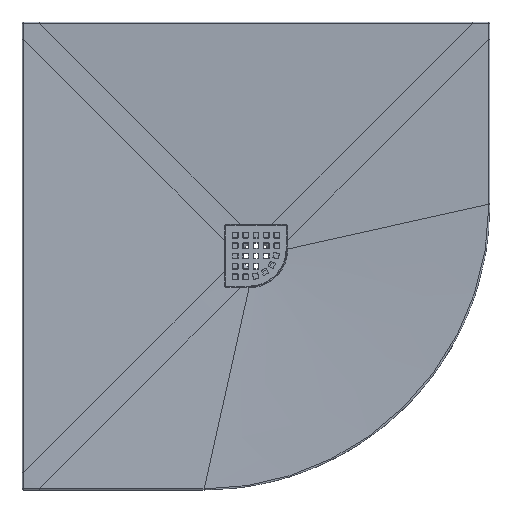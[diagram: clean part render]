
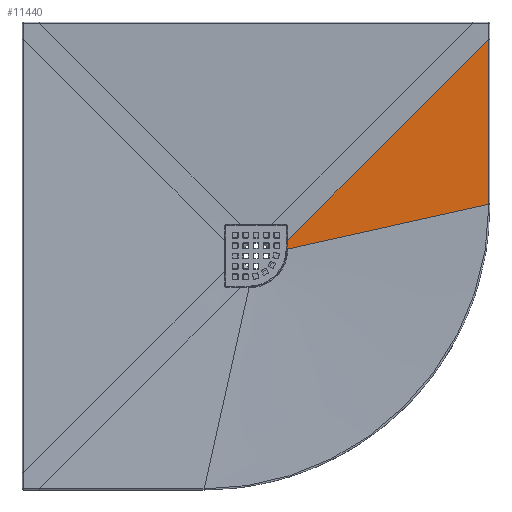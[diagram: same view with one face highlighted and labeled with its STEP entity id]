
A CAD part, top view. The second image highlights one B-rep face of the part: STEP entity #11440.
In plain terms, the highlighted free-form (B-spline) face has degree [1, 1] with [2, 2] control points.
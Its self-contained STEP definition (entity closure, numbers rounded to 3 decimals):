
#1647 = CARTESIAN_POINT ( 'NONE',  ( 105.224, 74.478, -13.261 ) ) ;
#2000 = CARTESIAN_POINT ( 'NONE',  ( 62.049, 31.302, -14.921 ) ) ;
#2184 = CARTESIAN_POINT ( 'NONE',  ( 90.196, 59.45, -13.839 ) ) ;
#2231 = CARTESIAN_POINT ( 'NONE',  ( 60.962, 13.215, -14.963 ) ) ;
#2389 = CARTESIAN_POINT ( 'NONE',  ( 447.924, 99.537, -0.08 ) ) ;
#2581 = CARTESIAN_POINT ( 'NONE',  ( 60.962, 30.215, -14.963 ) ) ;
#4662 = CARTESIAN_POINT ( 'NONE',  ( 329.573, 298.827, -4.632 ) ) ;
#5035 = CARTESIAN_POINT ( 'NONE',  ( 360.446, 329.699, -3.444 ) ) ;
#5225 = CARTESIAN_POINT ( 'NONE',  ( 114.659, 83.912, -12.898 ) ) ;
#5259 = CARTESIAN_POINT ( 'NONE',  ( 447.924, 417.178, -0.08 ) ) ;
#6133 = ORIENTED_EDGE ( 'NONE', *, *, #8110, .T. ) ;
#6441 = CARTESIAN_POINT ( 'NONE',  ( 447.923, 135.855, -0.08 ) ) ;
#7349 = CARTESIAN_POINT ( 'NONE',  ( 279.995, 249.248, -6.539 ) ) ;
#7530 = CARTESIAN_POINT ( 'NONE',  ( 79.339, 48.592, -14.256 ) ) ;
#7790 = EDGE_LOOP ( 'NONE', ( #33865, #18439, #19070, #6133, #17812 ) ) ;
#7927 = CARTESIAN_POINT ( 'NONE',  ( 60.962, 13.215, -14.963 ) ) ;
#8110 = EDGE_CURVE ( 'NONE', #28786, #22914, #22015, .T. ) ;
#8595 = CARTESIAN_POINT ( 'NONE',  ( 447.923, 99.537, -0.08 ) ) ;
#9808 = CARTESIAN_POINT ( 'NONE',  ( 447.923, 417.177, -0.08 ) ) ;
#9926 = VERTEX_POINT ( 'NONE', #31536 ) ;
#10516 = CARTESIAN_POINT ( 'NONE',  ( 177.569, 146.823, -10.478 ) ) ;
#11208 = B_SPLINE_CURVE_WITH_KNOTS ( 'NONE', 3,
 ( #2581, #35138, #21727, #26571, #2231 ),
 .UNSPECIFIED., .F., .F.,
 ( 4, 1, 4 ),
 ( 0., 7.638, 17.001 ),
 .UNSPECIFIED. ) ;
#11440 = ADVANCED_FACE ( 'NONE', ( #32265 ), #17843, .T. ) ;
#12073 = CARTESIAN_POINT ( 'NONE',  ( 447.923, 347.306, -0.08 ) ) ;
#12472 = CARTESIAN_POINT ( 'NONE',  ( 420.416, 389.669, -1.138 ) ) ;
#13183 = CARTESIAN_POINT ( 'NONE',  ( 96.787, 66.041, -13.585 ) ) ;
#14231 = CARTESIAN_POINT ( 'NONE',  ( 447.923, 100., -0.08 ) ) ;
#15487 = CARTESIAN_POINT ( 'NONE',  ( 60.962, 30.215, -14.963 ) ) ;
#15666 = CARTESIAN_POINT ( 'NONE',  ( 438.601, 407.855, -0.438 ) ) ;
#16034 = CARTESIAN_POINT ( 'NONE',  ( 151.531, 120.784, -11.48 ) ) ;
#16405 = VERTEX_POINT ( 'NONE', #31973 ) ;
#16408 = CARTESIAN_POINT ( 'NONE',  ( 447.923, 99.923, -0.08 ) ) ;
#16711 = DIRECTION ( 'NONE',  ( 0.975, 0.218, 0.038 ) ) ;
#17369 = CARTESIAN_POINT ( 'NONE',  ( 447.923, 99.768, -0.08 ) ) ;
#17391 = EDGE_CURVE ( 'NONE', #9926, #22914, #18307, .T. ) ;
#17812 = ORIENTED_EDGE ( 'NONE', *, *, #17391, .F. ) ;
#17843 = B_SPLINE_SURFACE_WITH_KNOTS ( 'NONE', 1, 1, ( 
 ( #2389, #7927 ),
 ( #5259, #20653 ) ),
 .UNSPECIFIED., .F., .F., .F.,
 ( 2, 2 ),
 ( 2, 2 ),
 ( 0., 319.111 ),
 ( 0., 1. ),
 .UNSPECIFIED. ) ;
#18170 = B_SPLINE_CURVE_WITH_KNOTS ( 'NONE', 3,
 ( #14231, #6441, #30588, #12073, #25046 ),
 .UNSPECIFIED., .F., .F.,
 ( 4, 1, 4 ),
 ( 0., 107.564, 317.177 ),
 .UNSPECIFIED. ) ;
#18307 = B_SPLINE_CURVE_WITH_KNOTS ( 'NONE', 3,
 ( #33133, #16408, #17369, #32610, #8595 ),
 .UNSPECIFIED., .F., .F.,
 ( 4, 1, 4 ),
 ( 0., 0.232, 0.463 ),
 .UNSPECIFIED. ) ;
#18313 = CARTESIAN_POINT ( 'NONE',  ( 192.943, 162.196, -9.887 ) ) ;
#18439 = ORIENTED_EDGE ( 'NONE', *, *, #30271, .F. ) ;
#18493 = CARTESIAN_POINT ( 'NONE',  ( 84.447, 53.701, -14.06 ) ) ;
#18675 = CARTESIAN_POINT ( 'NONE',  ( 228.542, 197.795, -8.518 ) ) ;
#19070 = ORIENTED_EDGE ( 'NONE', *, *, #29418, .T. ) ;
#20653 = CARTESIAN_POINT ( 'NONE',  ( 60.962, 56.748, -14.963 ) ) ;
#20749 = CARTESIAN_POINT ( 'NONE',  ( 447.923, 99.537, -0.08 ) ) ;
#20790 = CARTESIAN_POINT ( 'NONE',  ( 261.403, 230.656, -7.254 ) ) ;
#21153 = CARTESIAN_POINT ( 'NONE',  ( 64.606, 33.86, -14.823 ) ) ;
#21249 = VERTEX_POINT ( 'NONE', #24708 ) ;
#21727 = CARTESIAN_POINT ( 'NONE',  ( 60.962, 22.002, -14.963 ) ) ;
#22015 = LINE ( 'NONE', #33269, #24971 ) ;
#22914 = VERTEX_POINT ( 'NONE', #20749 ) ;
#23574 = CARTESIAN_POINT ( 'NONE',  ( 60.962, 13.215, -14.963 ) ) ;
#23997 = CARTESIAN_POINT ( 'NONE',  ( 74.062, 43.315, -14.459 ) ) ;
#24708 = CARTESIAN_POINT ( 'NONE',  ( 447.923, 417.177, -0.08 ) ) ;
#24971 = VECTOR ( 'NONE', #16711, 1000. ) ;
#25046 = CARTESIAN_POINT ( 'NONE',  ( 447.923, 417.177, -0.08 ) ) ;
#25980 = B_SPLINE_CURVE_WITH_KNOTS ( 'NONE', 3,
 ( #15487, #2000, #21153, #34901, #23997, #7530, #18493, #2184, #13183, #1647, #5225, #34530, #31678, #29358, #16034, #34184, #10516, #18313, #28814, #18675, #29178, #20790, #7349, #34348, #4662, #5035, #31499, #12472, #15666, #9808 ),
 .UNSPECIFIED., .F., .F.,
 ( 4, 1, 1, 1, 1, 1, 1, 1, 1, 1, 1, 1, 1, 1, 1, 1, 1, 1, 1, 1, 1, 1, 1, 1, 1, 1, 1, 4 ),
 ( 1.36, 5.975, 12.215, 20.045, 27.42, 34.613, 41.728, 51.819, 62.585, 77.537, 91.861, 103.028, 112.636, 128.948, 146.891, 164.427, 187.671, 212.139, 241.501, 261.687, 285.543, 307.565, 340.596, 376.976, 426.554, 471.625, 509.246, 548.809 ),
 .UNSPECIFIED. ) ;
#26203 = EDGE_CURVE ( 'NONE', #9926, #21249, #18170, .T. ) ;
#26571 = CARTESIAN_POINT ( 'NONE',  ( 60.962, 16.336, -14.963 ) ) ;
#28786 = VERTEX_POINT ( 'NONE', #23574 ) ;
#28814 = CARTESIAN_POINT ( 'NONE',  ( 211.103, 180.356, -9.188 ) ) ;
#29178 = CARTESIAN_POINT ( 'NONE',  ( 245.837, 215.091, -7.852 ) ) ;
#29358 = CARTESIAN_POINT ( 'NONE',  ( 141.196, 110.449, -11.877 ) ) ;
#29418 = EDGE_CURVE ( 'NONE', #16405, #28786, #11208, .T. ) ;
#30271 = EDGE_CURVE ( 'NONE', #16405, #21249, #25980, .T. ) ;
#30588 = CARTESIAN_POINT ( 'NONE',  ( 447.923, 241.58, -0.08 ) ) ;
#31499 = CARTESIAN_POINT ( 'NONE',  ( 391.611, 360.864, -2.246 ) ) ;
#31536 = CARTESIAN_POINT ( 'NONE',  ( 447.923, 100., -0.08 ) ) ;
#31678 = CARTESIAN_POINT ( 'NONE',  ( 132.458, 101.711, -12.213 ) ) ;
#31973 = CARTESIAN_POINT ( 'NONE',  ( 60.962, 30.215, -14.963 ) ) ;
#32265 = FACE_OUTER_BOUND ( 'NONE', #7790, .T. ) ;
#32610 = CARTESIAN_POINT ( 'NONE',  ( 447.923, 99.614, -0.08 ) ) ;
#33133 = CARTESIAN_POINT ( 'NONE',  ( 447.923, 100., -0.08 ) ) ;
#33269 = CARTESIAN_POINT ( 'NONE',  ( 60.962, 13.215, -14.963 ) ) ;
#33865 = ORIENTED_EDGE ( 'NONE', *, *, #26203, .T. ) ;
#34184 = CARTESIAN_POINT ( 'NONE',  ( 163.733, 132.987, -11.01 ) ) ;
#34348 = CARTESIAN_POINT ( 'NONE',  ( 301.538, 270.791, -5.71 ) ) ;
#34530 = CARTESIAN_POINT ( 'NONE',  ( 124.188, 93.441, -12.531 ) ) ;
#34901 = CARTESIAN_POINT ( 'NONE',  ( 69.009, 38.262, -14.654 ) ) ;
#35138 = CARTESIAN_POINT ( 'NONE',  ( 60.962, 27.669, -14.963 ) ) ;
